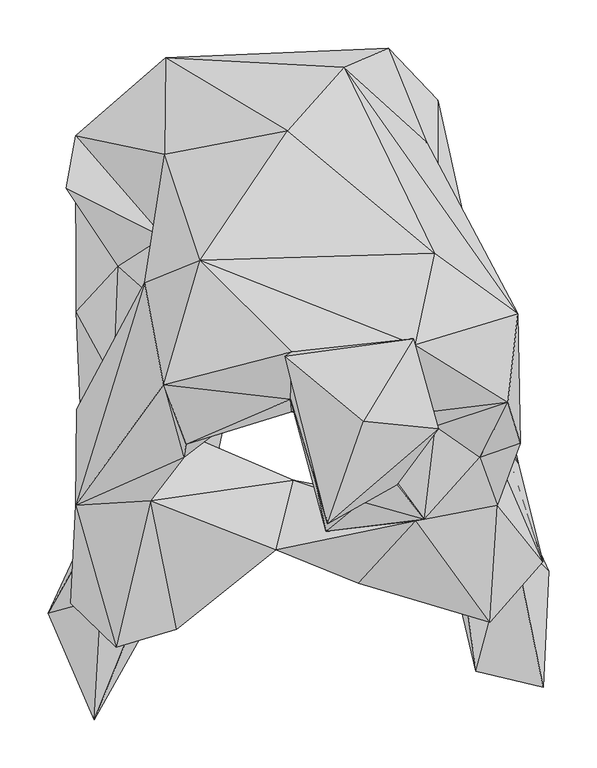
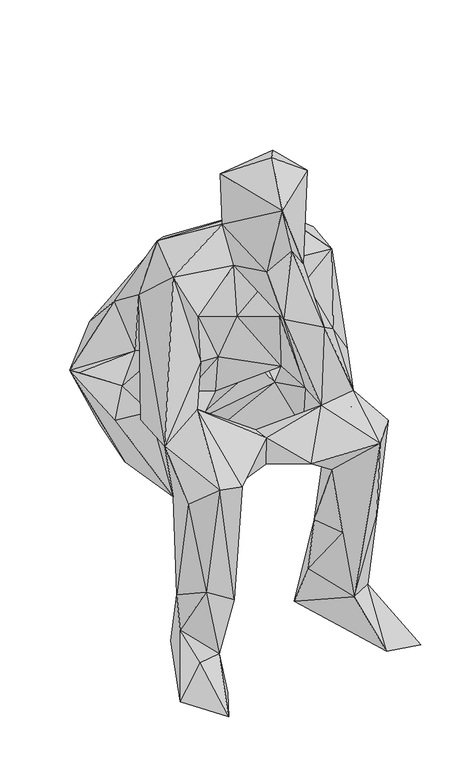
"""IFC4 building model written with IfcOpenShell, lengths in millimetres: geographic element geometry, Enscape AssetDefinition - Bobby 004 Sitting : Enscape AssetDefinition - Bobby 004 Sitting."""

from ifc_helpers import new_model, si_unit, origin, place, context, project, spatial, triangles, source, transform, mapped, element, save


def geographic_element_9b3c71e4(model_context):
    return source(origin(), model_context, "Body", "Tessellation", [
        triangles([(-146.2959939, -271.1850097, 8.6839999), (-154.5750126, -54.9309994, 8.8820001), (-101.426994, -81.5349941, 7.5660001), (-248.3959937, -256.8410088, 13.5979993), (-97.5409939, -117.3850043, 144.5910017), (-91.5519972, -182.3229918, 433.2279894), (-122.0590013, -114.3550021, 232.3780034), (-103.093998, -222.5310027, 193.1139938), (-148.2100032, -239.0900029, 86.348999), (-217.0259972, -201.6060081, 145.7999941), (-185.6040052, -251.134017, 257.3629972), (-114.404999, -273.5649879, 506.169976), (-141.8689931, -140.0350026, 626.6350067), (-177.4629869, -292.2399927, 531.4459768), (-10.8569999, -190.7539998, 541.0550197), (74.6449986, -225.5419926, 467.7950292), (-10.7010002, -188.7939995, 474.1280002), (7.1660001, -118.5109984, 510.332004), (-165.9649969, -133.4670078, 398.7190129), (-68.447003, 64.6789963, 369.4779925), (-42.3329993, 46.1920024, 448.9439996), (-97.2890016, -73.6689999, 537.3520117), (9.303, 77.1459997, 374.8939774), (-106.8539974, -42.0710013, 600.0789968), (-28.9280013, -18.5109988, 557.9640166), (-127.8890052, -19.0769992, 872.7779766), (-107.0260072, -94.6130022, 702.9459738), (-33.6910009, -38.3169971, 655.5550438), (-104.8290029, -80.8810006, 805.3810003), (110.2489936, -42.949, 584.9520132), (5.0390002, -47.2690034, 748.2119608), (3.841, -34.2889976, 865.8050011), (88.1819994, -74.5960009, 734.2620129), (111.5520028, -136.5720054, 588.1270011), (104.8120072, -106.5869988, 773.5429728), (201.0479935, -94.7300009, 677.3800198), (155.0099969, -62.5419992, 789.3529816), (219.3950023, -144.5419949, 548.8489843), (230.2750068, -37.5309986, 829.5220413), (110.1480005, -51.834, 850.7360081), (242.9830065, -79.8500043, 605.2380206), (240.5119909, 54.3290012, 824.2379889), (153.6610059, 117.3770015, 859.3000202), (145.5279994, 233.3910048, 622.5319868), (75.7649975, -5.729, 575.1960317), (173.3479946, 76.8370069, 630.249975), (157.3530044, 185.6230084, 571.7660085), (105.2320034, -137.353998, 490.9489938), (106.902005, -21.2919984, 533.6689879), (136.7030021, -199.6439913, 416.207989), (159.4930082, -205.9309985, 256.4460111), (168.8770103, -75.0239998, 206.1000107), (130.2729985, -117.4350012, 123.7260053), (211.4699955, -266.1100106, 494.8810212), (234.8610096, -175.4300078, 84.8089949), (257.2279946, -173.1179941, 245.3890007), (196.5339885, -45.7439965, 11.3859999), (234.4480079, -102.9520008, 258.924984), (266.6240054, -203.2489856, 494.9439898), (241.2879973, -100.7440051, 474.299029), (134.6839938, -160.7120108, 551.3910167), (143.5800078, -159.1730059, 740.4590183), (114.568997, -123.4259964, 884.6899675), (78.0919993, -140.8900012, 939.658996), (41.0059999, -171.5170017, 802.6180149), (30.4799982, -121.8050016, 893.1980238), (79.825996, -57.5170016, 1117.8750074), (42.4609983, -163.6290021, 1065.0409504), (157.7630084, -64.846001, 1065.118998), (133.3059983, 22.1670018, 921.8260002), (-1.516, 10.4369992, 1066.5479805), (131.9899994, 28.5730016, 1066.558009), (-90.1139945, 110.368999, 871.3059734), (5.7140004, 14.7869994, 936.2589855), (59.5909984, 311.2109822, 643.5290337), (0.832, 244.6730015, 768.2190245), (-126.0959915, 320.9860033, 558.4920004), (-128.0809902, 134.1110001, 599.000974), (-127.1719977, 220.5020023, 669.0109812), (55.132, 288.0170128, 364.0890046), (105.8289963, 330.8350024, 515.2320319), (132.9039971, 209.3389845, 359.7410142), (157.1400086, 276.9300078, 482.5380246), (139.9610064, 112.240996, 534.3830069), (166.6239864, -114.2489948, 387.8260005), (-175.9349915, -116.1459992, 165.9130015), (-193.0260086, 64.3419983, 390.342998), (-218.9310044, 56.5859992, 506.5760196), (-219.3960015, 239.5750023, 519.1019629), (-150.6160064, 238.9119977, 361.876022), (-224.750998, -246.6659939, 485.4930041), (-209.9160024, -160.4830095, 446.8449998), (-200.2169941, -367.7070251, 27.1230015), (-193.2890013, -241.5889964, 81.4029982), (-229.6710102, 185.0049866, 549.2330089), (-175.390003, 103.8669976, 548.0160047), (-110.5529994, 46.2380025, 651.7980057), (-147.6439949, 86.708997, 772.4120098), (-180.1349895, -14.446, 557.1429548), (-219.6519997, -144.4270037, 565.3129867), (-218.4430073, -44.9030005, 570.0150252), (134.6270024, -52.8039989, 3.525), (272.9580119, -213.1559936, 5.6950001), (182.4020023, -211.3549952, 94.0999975), (267.2779807, -333.7430008, 19.9040017), (197.0809937, -317.02102, 18.5170009), (196.0530041, -39.7430002, 556.8490047)], [[84, 107, 60], [106, 105, 55], [106, 55, 104], [55, 105, 103], [105, 106, 103], [102, 104, 53], [102, 106, 104], [103, 106, 102], [103, 57, 55], [103, 102, 57], [57, 102, 52], [102, 53, 52], [57, 52, 58], [60, 58, 85], [58, 52, 85], [99, 100, 101], [101, 100, 98], [97, 101, 98], [97, 99, 101], [97, 98, 78], [89, 95, 78], [78, 96, 97], [89, 96, 95], [96, 99, 97], [95, 96, 78], [96, 88, 99], [89, 88, 96], [94, 93, 9], [93, 94, 4], [9, 10, 94], [94, 10, 4], [10, 86, 4], [92, 99, 88], [100, 99, 92], [92, 91, 100], [91, 92, 86], [87, 92, 88], [90, 87, 89], [87, 88, 89], [19, 92, 87], [86, 92, 19], [20, 87, 90], [19, 87, 20], [23, 20, 90], [60, 85, 82], [23, 82, 85], [47, 84, 83], [84, 60, 83], [60, 82, 83], [83, 82, 80], [23, 80, 82], [23, 90, 80], [44, 47, 81], [47, 83, 81], [83, 80, 81], [44, 81, 75], [81, 77, 75], [77, 80, 90], [80, 77, 81], [89, 77, 90], [89, 79, 77], [79, 78, 98], [89, 78, 79], [77, 79, 76], [75, 77, 76], [75, 76, 43], [73, 43, 76], [79, 73, 76], [98, 73, 79], [73, 70, 43], [70, 74, 72], [70, 73, 74], [74, 71, 72], [71, 67, 72], [72, 69, 70], [67, 69, 72], [67, 68, 69], [71, 74, 68], [68, 67, 71], [74, 66, 68], [68, 63, 69], [69, 63, 70], [70, 63, 40], [64, 63, 68], [68, 66, 64], [65, 64, 66], [63, 64, 62], [64, 65, 62], [65, 61, 62], [62, 61, 38], [60, 107, 59], [38, 59, 107], [59, 58, 60], [58, 59, 56], [56, 55, 57], [104, 55, 56], [56, 57, 58], [59, 54, 56], [54, 59, 38], [61, 54, 38], [56, 54, 104], [53, 104, 51], [51, 104, 54], [53, 51, 52], [51, 50, 52], [51, 54, 50], [52, 50, 85], [23, 85, 48], [48, 18, 61], [50, 48, 85], [84, 49, 107], [45, 49, 84], [23, 48, 49], [49, 48, 34], [61, 65, 34], [48, 61, 34], [107, 49, 30], [34, 30, 49], [46, 84, 47], [46, 45, 84], [44, 46, 47], [30, 45, 46], [42, 46, 44], [70, 42, 43], [42, 44, 75], [42, 75, 43], [42, 41, 46], [41, 107, 30], [41, 30, 46], [41, 38, 107], [39, 41, 42], [70, 39, 42], [40, 39, 70], [39, 36, 41], [62, 38, 36], [38, 41, 36], [36, 39, 37], [37, 39, 40], [62, 36, 37], [37, 35, 62], [35, 63, 62], [40, 63, 35], [35, 65, 40], [34, 65, 35], [30, 34, 33], [33, 37, 40], [33, 35, 37], [34, 35, 33], [31, 33, 40], [31, 30, 33], [74, 32, 66], [32, 65, 66], [65, 32, 40], [31, 40, 32], [26, 74, 73], [98, 100, 26], [26, 32, 74], [26, 73, 98], [32, 29, 31], [26, 29, 32], [28, 30, 31], [29, 28, 31], [29, 27, 28], [26, 100, 27], [26, 27, 29], [100, 13, 27], [27, 24, 28], [13, 24, 27], [30, 25, 45], [28, 25, 30], [24, 25, 28], [21, 49, 45], [45, 25, 21], [23, 49, 21], [20, 23, 21], [13, 18, 22], [24, 22, 25], [22, 21, 25], [24, 13, 22], [22, 6, 21], [21, 6, 20], [6, 19, 20], [48, 17, 18], [18, 17, 22], [22, 17, 6], [48, 16, 17], [50, 16, 48], [61, 16, 54], [50, 54, 16], [18, 15, 61], [13, 15, 18], [6, 17, 15], [15, 17, 16], [61, 15, 16], [13, 12, 15], [15, 12, 6], [100, 91, 14], [13, 100, 14], [12, 13, 14], [11, 91, 86], [10, 11, 86], [11, 14, 91], [10, 9, 11], [12, 8, 6], [11, 9, 8], [14, 8, 12], [11, 8, 14], [19, 7, 86], [6, 7, 19], [6, 8, 7], [7, 5, 86], [5, 8, 9], [7, 8, 5], [5, 9, 3], [5, 3, 2], [2, 86, 5], [4, 86, 2], [9, 1, 3], [9, 93, 1], [93, 4, 1], [1, 2, 3], [1, 4, 2]]),
    ])


if __name__ == "__main__":
    model = new_model("IFC4")
    model_context = context("Model", 3, world=origin())
    ifc_project = project(units=[si_unit("LENGTHUNIT", "METRE", prefix="MILLI")], contexts=[model_context])
    site = spatial("IfcSite", under=ifc_project)
    building = spatial("IfcBuilding", under=site)
    placement = place(None, origin())
    geographic_element_shape = geographic_element_9b3c71e4(model_context)
    element("IfcGeographicElement", 1, ObjectType="Enscape AssetDefinition - Bobby 004 Sitting : Enscape AssetDefinition - Bobby 004 Sitting", at=placement, inside=building, context=model_context, shape_type="MappedRepresentation", body=[
        mapped(geographic_element_shape, transform((0.0, 0.0, 0.0), x_axis=(1.0, 0.0, 0.0), y_axis=(0.0, 1.0, 0.0), z_axis=(0.0, 0.0, 1.0))),
    ])
    save(model, "model.ifc")
